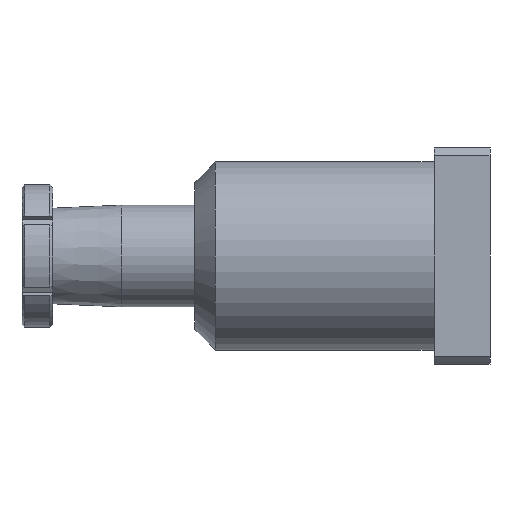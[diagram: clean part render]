
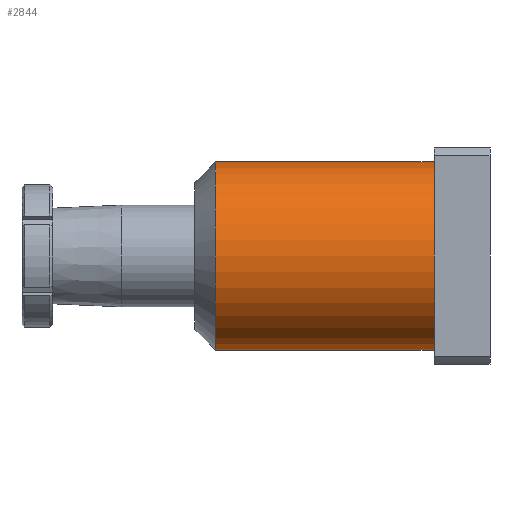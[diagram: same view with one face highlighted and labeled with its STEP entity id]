
A CAD part, left-side view. The second image highlights one B-rep face of the part: STEP entity #2844.
In plain terms, the highlighted cylindrical face has radius 37 mm (diameter 74 mm), a partial arc.
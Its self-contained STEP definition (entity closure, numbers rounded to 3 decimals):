
#15 = FACE_OUTER_BOUND ( 'NONE', #2083, .T. ) ;
#270 = DIRECTION ( 'NONE',  ( 0., -1., 0. ) ) ;
#275 = DIRECTION ( 'NONE',  ( 0., -1., 0. ) ) ;
#309 = CARTESIAN_POINT ( 'NONE',  ( 0., 0., 0. ) ) ;
#316 = LINE ( 'NONE', #2952, #2043 ) ;
#376 = AXIS2_PLACEMENT_3D ( 'NONE', #309, #2028, #550 ) ;
#550 = DIRECTION ( 'NONE',  ( 0., 0., 1. ) ) ;
#595 = CYLINDRICAL_SURFACE ( 'NONE', #1432, 37. ) ;
#809 = ORIENTED_EDGE ( 'NONE', *, *, #2921, .T. ) ;
#812 = VERTEX_POINT ( 'NONE', #1120 ) ;
#816 = ORIENTED_EDGE ( 'NONE', *, *, #946, .F. ) ;
#842 = CARTESIAN_POINT ( 'NONE',  ( 0., 0., 37. ) ) ;
#946 = EDGE_CURVE ( 'NONE', #812, #1724, #316, .T. ) ;
#951 = DIRECTION ( 'NONE',  ( 0., -1., 0. ) ) ;
#1120 = CARTESIAN_POINT ( 'NONE',  ( 0., 86., 37. ) ) ;
#1142 = EDGE_CURVE ( 'NONE', #812, #1176, #2875, .T. ) ;
#1176 = VERTEX_POINT ( 'NONE', #2728 ) ;
#1197 = CARTESIAN_POINT ( 'NONE',  ( 0., 94., 0. ) ) ;
#1432 = AXIS2_PLACEMENT_3D ( 'NONE', #1197, #951, #3129 ) ;
#1679 = EDGE_CURVE ( 'NONE', #2525, #1724, #2507, .T. ) ;
#1724 = VERTEX_POINT ( 'NONE', #842 ) ;
#1741 = CARTESIAN_POINT ( 'NONE',  ( 0., 86., 0. ) ) ;
#2001 = DIRECTION ( 'NONE',  ( 0., 0., -1. ) ) ;
#2028 = DIRECTION ( 'NONE',  ( 0., 1., 0. ) ) ;
#2030 = ORIENTED_EDGE ( 'NONE', *, *, #1679, .T. ) ;
#2043 = VECTOR ( 'NONE', #275, 1000. ) ;
#2083 = EDGE_LOOP ( 'NONE', ( #816, #2555, #809, #2030 ) ) ;
#2111 = CARTESIAN_POINT ( 'NONE',  ( 0., 94., -37. ) ) ;
#2366 = CARTESIAN_POINT ( 'NONE',  ( 0., 0., -37. ) ) ;
#2471 = AXIS2_PLACEMENT_3D ( 'NONE', #1741, #270, #2001 ) ;
#2476 = VECTOR ( 'NONE', #2837, 1000. ) ;
#2507 = CIRCLE ( 'NONE', #376, 37. ) ;
#2525 = VERTEX_POINT ( 'NONE', #2366 ) ;
#2555 = ORIENTED_EDGE ( 'NONE', *, *, #1142, .T. ) ;
#2728 = CARTESIAN_POINT ( 'NONE',  ( 0., 86., -37. ) ) ;
#2837 = DIRECTION ( 'NONE',  ( 0., -1., 0. ) ) ;
#2844 = ADVANCED_FACE ( 'NONE', ( #15 ), #595, .T. ) ;
#2875 = CIRCLE ( 'NONE', #2471, 37. ) ;
#2921 = EDGE_CURVE ( 'NONE', #1176, #2525, #3029, .T. ) ;
#2952 = CARTESIAN_POINT ( 'NONE',  ( 0., 94., 37. ) ) ;
#3029 = LINE ( 'NONE', #2111, #2476 ) ;
#3129 = DIRECTION ( 'NONE',  ( 0., 0., -1. ) ) ;
